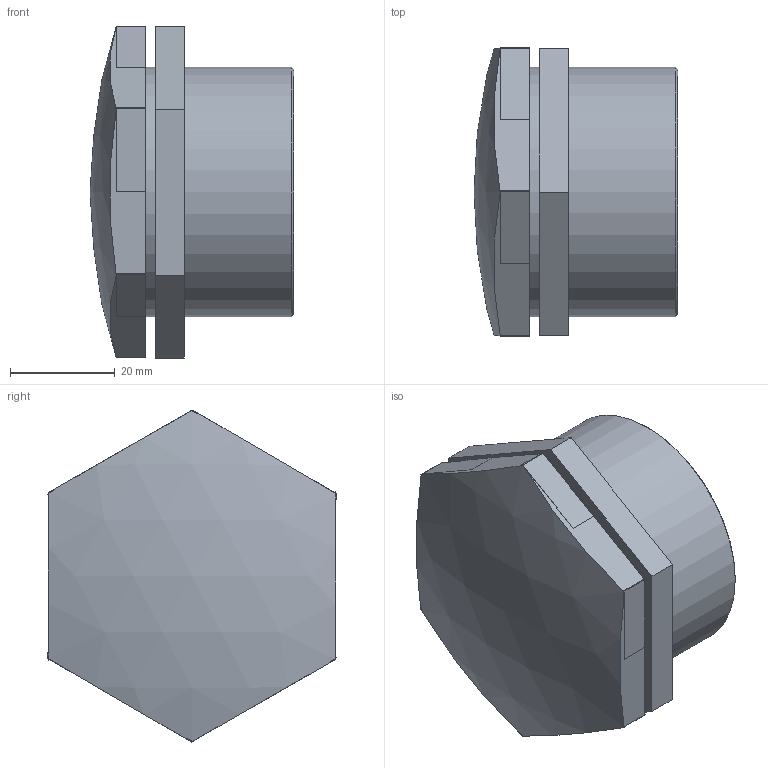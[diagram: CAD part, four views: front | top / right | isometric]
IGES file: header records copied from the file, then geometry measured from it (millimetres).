
Global section: file name: 051707015_0517070150A.ipt; native system: Autodesk Inventor 2015; preprocessor: unknown; author: Кирилл,,11,0; organization: 20170503.073136; date: 20170618.093339; units: millimetre
Bounding box: 39 x 55.23 x 63.51 mm (x, y, z)
Volume: 34063.3 mm3; surface area: 16904.9 mm2
Topology: 7 solids, 7 shells, 64 faces, 139 edges, 93 vertices
Faces by surface type: plane 52, revolution 8, cylinder 2, sphere 1, cone 1
Full cylindrical faces by diameter (mm): 47.803 x2
